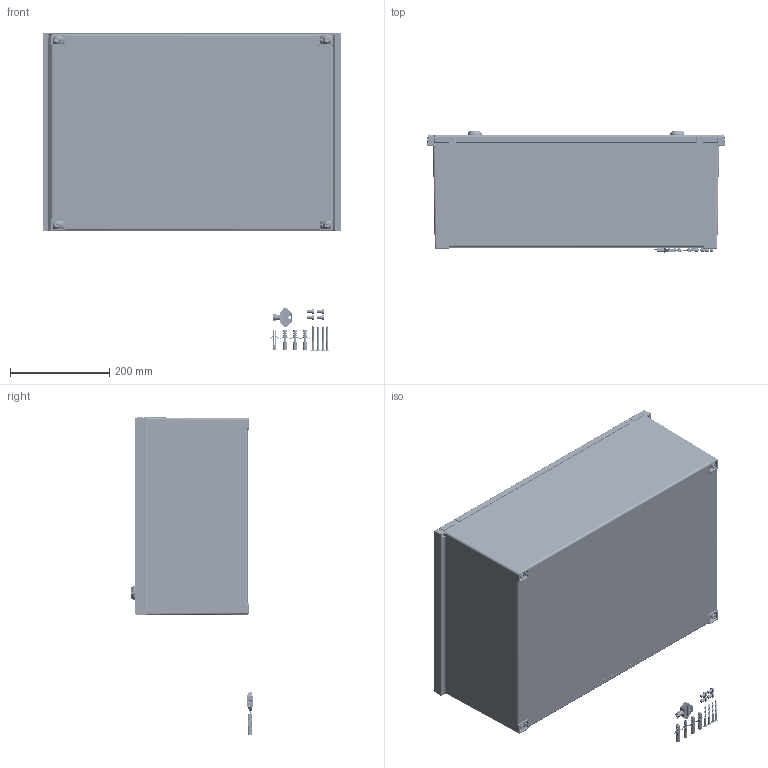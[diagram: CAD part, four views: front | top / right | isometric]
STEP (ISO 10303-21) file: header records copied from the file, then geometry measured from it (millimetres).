
FILE_DESCRIPTION(/* description */ (''),/* implementation_level */ '2;1');
FILE_NAME(/* name */ 'C:\Users\ahermoni\Desktop\42164200_PS 642.stp',/* time_stamp */ '2019-09-12T13:14:47+02:00',/* author */ ('ahermoni'),/* organization */ ('Fa. Bopla'),/* preprocessor_version */ 'ST-DEVELOPER v17.2',/* originating_system */ 'Autodesk Inventor 2019',/* authorisation */ '');
FILE_SCHEMA (('AUTOMOTIVE_DESIGN { 1 0 10303 214 3 1 1 }'));
Products named in the file (17): Polysafe PS 642; Unterteil1; Oberteil; Tür 1; Halter; Schraube4; Scheibe; Schloss; Mutter; Rahmen; Zubehör; Schraube2; Dübel; Schlüssel; Schraube1; Achse; Gewindeeinsatz M6x8
Assembly tree (36 placements, depth 3):
  Polysafe PS 642
    Unterteil1
    Oberteil
      Tür 1
      Halter  x2
      Schraube4  x2
      Scheibe  x2
      Schloss  x2
      Mutter  x2
      Rahmen
    Zubehör
      Schraube2  x4
      Dübel  x4
      Schlüssel
      Schraube1  x4
    Achse  x2
    Gewindeeinsatz M6x8  x6
Bounding box: 600 x 245.5 x 640.84 mm (x, y, z)
Volume: 3497362.1 mm3; surface area: 2228644.7 mm2
Topology: 42 solids, 56 shells, 7483 faces, 18338 edges, 11215 vertices
Faces by surface type: cylinder 2687, bspline 1962, plane 1913, cone 424, sphere 255, torus 242
Full cylindrical faces by diameter (mm): 2 x2, 2.62 x56, 3 x30, 3.7 x2, 4 x8, 4.2 x4, 4.5 x6, 5 x10, 5.4 x4, 6 x13, 6.55 x4, 6.71 x2, 7 x4, 7.3 x16, 8 x4, 8.5 x2, 9 x1, 10 x12, 10.18 x4, 10.2 x2, 12 x2, 14 x2, 14.2 x2, 18.5 x2, 19.8 x2, 21 x2, 22 x4, 23 x2, 27 x2, 29 x4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
Entity records: 341159 total; most frequent: CARTESIAN_POINT 208893, ORIENTED_EDGE 28331, DIRECTION 26508, EDGE_CURVE 14171, AXIS2_PLACEMENT_3D 10268, VERTEX_POINT 8655, EDGE_LOOP 6506, FACE_OUTER_BOUND 6007
